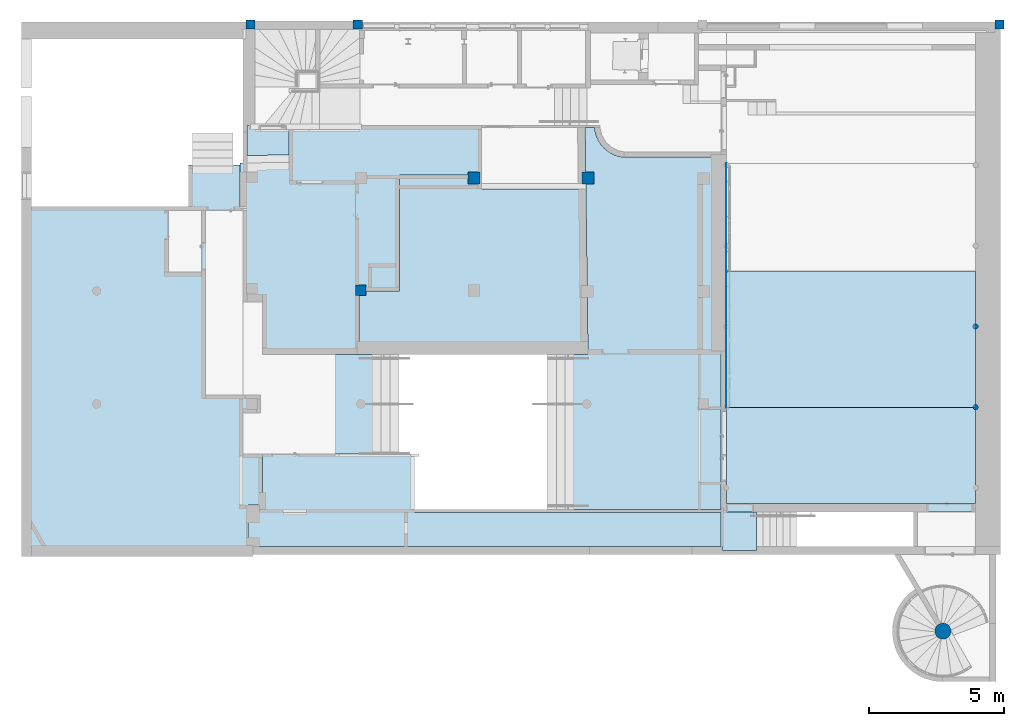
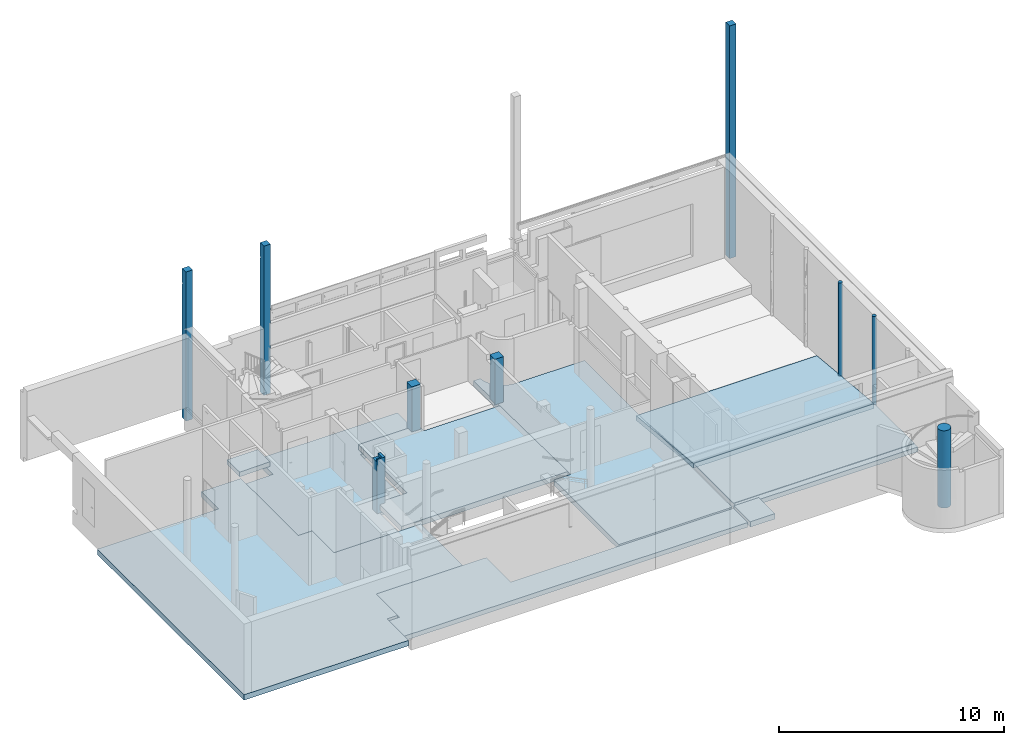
# One storey, part 3 of 39: 13 slabs, 9 columns, 2 elements without a shape of their own.
"""IFC4 building model written with IfcOpenShell, lengths in metres."""

from ifc_helpers import new_model, entity, si_unit, converted_unit, derived_unit, direction, frame, origin, place, context, subcontext, project, spatial, indexed_curve, outline, extrude, polygons, source, transform, mapped, material, material_list, layer, layer_set, type_object, type_shapes, element, aggregate, save


model = new_model("IFC4")

# Units and contexts
model_context = context("Model", 3, precision=1e-05, world=origin(), true_north=direction((6.12303176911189e-17, 1.0)))
body_context = subcontext(model_context, "Body", "Model", "MODEL_VIEW")
ifc_project = project(units=[si_unit("LENGTHUNIT", "METRE"), si_unit("AREAUNIT", "SQUARE_METRE"), si_unit("VOLUMEUNIT", "CUBIC_METRE"), converted_unit("PLANEANGLEUNIT", "DEGREE", entity("IfcRatioMeasure", 0.0174532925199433), si_unit("PLANEANGLEUNIT", "RADIAN"), dimensions=[0, 0, 0, 0, 0, 0, 0]), si_unit("MASSUNIT", "GRAM", prefix="KILO"), derived_unit("MASSDENSITYUNIT", [(si_unit("MASSUNIT", "GRAM", prefix="KILO"), 1), (si_unit("LENGTHUNIT", "METRE"), -3)]), derived_unit("MOMENTOFINERTIAUNIT", [(si_unit("LENGTHUNIT", "METRE"), 4)]), si_unit("TIMEUNIT", "SECOND"), si_unit("FREQUENCYUNIT", "HERTZ"), si_unit("THERMODYNAMICTEMPERATUREUNIT", "DEGREE_CELSIUS"), derived_unit("THERMALTRANSMITTANCEUNIT", [(si_unit("MASSUNIT", "GRAM", prefix="KILO"), 1), (si_unit("THERMODYNAMICTEMPERATUREUNIT", "KELVIN"), -1), (si_unit("TIMEUNIT", "SECOND"), -3)]), derived_unit("VOLUMETRICFLOWRATEUNIT", [(si_unit("LENGTHUNIT", "METRE"), 3), (si_unit("TIMEUNIT", "SECOND"), -1)]), si_unit("ELECTRICCURRENTUNIT", "AMPERE"), si_unit("ELECTRICVOLTAGEUNIT", "VOLT"), si_unit("POWERUNIT", "WATT"), si_unit("FORCEUNIT", "NEWTON", prefix="KILO"), si_unit("ILLUMINANCEUNIT", "LUX"), si_unit("LUMINOUSFLUXUNIT", "LUMEN"), si_unit("LUMINOUSINTENSITYUNIT", "CANDELA"), derived_unit("USERDEFINED", [(si_unit("MASSUNIT", "GRAM", prefix="KILO"), -1), (si_unit("LENGTHUNIT", "METRE"), -2), (si_unit("TIMEUNIT", "SECOND"), 3), (si_unit("LUMINOUSFLUXUNIT", "LUMEN"), 1)]), derived_unit("LINEARVELOCITYUNIT", [(si_unit("LENGTHUNIT", "METRE"), 1), (si_unit("TIMEUNIT", "SECOND"), -1)]), si_unit("PRESSUREUNIT", "PASCAL"), derived_unit("USERDEFINED", [(si_unit("LENGTHUNIT", "METRE"), -2), (si_unit("MASSUNIT", "GRAM", prefix="KILO"), 1), (si_unit("TIMEUNIT", "SECOND"), -2)]), derived_unit("LINEARFORCEUNIT", [(si_unit("MASSUNIT", "GRAM", prefix="KILO"), 1), (si_unit("LENGTHUNIT", "METRE"), 1), (si_unit("TIMEUNIT", "SECOND"), -2), (si_unit("LENGTHUNIT", "METRE"), -1)]), derived_unit("PLANARFORCEUNIT", [(si_unit("MASSUNIT", "GRAM", prefix="KILO"), 1), (si_unit("LENGTHUNIT", "METRE"), 1), (si_unit("TIMEUNIT", "SECOND"), -2), (si_unit("LENGTHUNIT", "METRE"), -2)])], contexts=[model_context])

# Site, building, storey
site_placement = place(None, origin())
site = spatial("IfcSite", under=ifc_project, at=site_placement, Name="Default", CompositionType="ELEMENT")
building_placement = place(site_placement, origin())
building = spatial("IfcBuilding", under=site, at=building_placement, Name="HOTEL CONSULAIRE BOULOGNE SUR MER", CompositionType="ELEMENT")
storey_placement = place(building_placement, frame((0.0, 0.0, -5.02343668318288)))
storey = spatial("IfcBuildingStorey", under=building, at=storey_placement, Name="SS3", CompositionType="ELEMENT", Elevation=-5.02343668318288)

# Columns
ifc_material_1 = material(Name="Finition Peinture - Blanc satiné", Category="Peinture")
ifc_material_2 = material(Name="Maçonnerie - Béton coulé sur place", Category="Béton")
ifc_material_list_1 = material_list([ifc_material_2, ifc_material_1])
column_type_1 = type_object("IfcColumnType", Name="Poteau béton - Rectangulaire:340x340", PredefinedType="COLUMN", material=ifc_material_list_1)
shared_shape_1 = source(origin(), body_context, "Body", "Tessellation", [
    polygons([(0.340000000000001, 0.340000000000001, 0.0), (0.340000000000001, 0.0, 0.0), (1.08286712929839e-15, 0.0, 0.0), (1.08286712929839e-15, 0.340000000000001, 0.0), (0.340000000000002, 0.34, 7.22743668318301), (0.340000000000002, 0.304308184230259, 7.22743668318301), (0.340000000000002, 0.304308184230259, 7.32743668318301), (0.340000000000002, 0.34, 7.32743668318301), (0.340000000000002, 0.34, 8.07496366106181), (0.340000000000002, 0.0, 8.07496366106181), (1.08286712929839e-15, 0.0, 8.07496366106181), (1.08286712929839e-15, 0.0, 8.07454145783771), (1.08286712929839e-15, 0.0, 5.00343668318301), (1.08286712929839e-15, 0.340000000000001, 8.07496366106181), (1.08286712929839e-15, 0.340000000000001, 7.32743668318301), (1.08286712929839e-15, 0.304308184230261, 7.32743668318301), (1.08286712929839e-15, 0.304308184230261, 7.22743668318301), (1.08286712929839e-15, 0.340000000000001, 7.22743668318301)], [[[3, 4, 1, 2]], [[15, 8, 7, 16]], [[10, 2, 1, 5, 6, 7, 8, 9]], [[10, 11, 12, 13, 3, 2]], [[14, 15, 16, 17, 18, 4, 3, 13, 12, 11]], [[14, 9, 8, 15]], [[7, 6, 17, 16]], [[18, 5, 1, 4]], [[10, 9, 14, 11]], [[6, 5, 18, 17]]], closed=True),
])
type_shapes(column_type_1, [shared_shape_1])
column_1_placement = place(storey_placement, frame((-5.50398066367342, -10.0846323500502, 0.0)))
element("IfcColumn", 1, at=column_1_placement, inside=storey, type_object=column_type_1, material=ifc_material_1, Name="Poteau béton - Rectangulaire:340x340", ObjectType="Poteau béton - Rectangulaire:340x340", PredefinedType="COLUMN", context=body_context, shape_type="MappedRepresentation", body=[
    mapped(shared_shape_1, transform((0.0, 0.0, 0.0), scale=1.0)),
])
column_type_2 = type_object("IfcColumnType", Name="Poteau béton - Rectangulaire:340x340", PredefinedType="COLUMN", material=ifc_material_2)
shared_shape_2 = source(origin(), body_context, "Body", "Tessellation", [
    polygons([(0.340000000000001, 0.340000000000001, 0.0), (0.340000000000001, 0.27030818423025, 0.0), (0.340000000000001, 0.14430818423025, 0.0), (0.340000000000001, 0.0, 0.0), (5.41433564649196e-16, 0.0, 0.0), (5.41433564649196e-16, 0.340000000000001, 0.0), (0.34, 0.34, 7.22743668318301), (0.34, 0.304308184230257, 7.22743668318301), (0.34, 0.304308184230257, 7.32743668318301), (0.34, 0.34, 7.32743668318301), (0.34, 0.34, 8.07496366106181), (0.34, 0.32999999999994, 8.07496366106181), (0.34, 0.00999999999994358, 8.07496366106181), (0.34, 0.0, 8.07496366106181), (0.34, 0.0, 3.81699999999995), (0.34, 0.0, 2.63399047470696), (0.34, 0.0, 2.46399047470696), (0.34, 0.0, 0.0800000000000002), (5.41433564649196e-16, 0.0, 8.07496366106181), (5.41433564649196e-16, 0.00999999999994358, 8.07496366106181), (5.41433564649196e-16, 0.329999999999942, 8.07496366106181), (5.41433564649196e-16, 0.340000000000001, 8.07496366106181), (5.41433564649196e-16, 0.340000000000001, 7.32743668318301), (5.41433564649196e-16, 0.304308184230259, 7.32743668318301), (5.41433564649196e-16, 0.304308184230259, 7.22743668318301), (5.41433564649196e-16, 0.340000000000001, 7.22743668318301)], [[[5, 6, 1, 2, 3, 4]], [[23, 10, 9, 24]], [[13, 14, 15, 16, 17, 18, 4, 3, 2, 1, 7, 8, 9, 10, 11, 12]], [[19, 5, 4, 18, 17, 16, 15, 14]], [[22, 23, 24, 25, 26, 6, 5, 19, 20, 21]], [[22, 11, 10, 23]], [[24, 9, 8, 25]], [[26, 7, 1, 6]], [[12, 11, 22, 21, 20, 19, 14, 13]], [[8, 7, 26, 25]]], closed=True),
])
type_shapes(column_type_2, [shared_shape_2])
column_2_placement = place(storey_placement, frame((-1.51098066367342, -10.0846323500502, 0.0)))
element("IfcColumn", 2, at=column_2_placement, inside=storey, type_object=column_type_2, material=ifc_material_2, Name="Poteau béton - Rectangulaire:340x340", ObjectType="Poteau béton - Rectangulaire:340x340", PredefinedType="COLUMN", context=body_context, shape_type="MappedRepresentation", body=[
    mapped(shared_shape_2, transform((0.0, 0.0, 0.0), scale=1.0)),
])
ifc_material_list_2 = material_list([ifc_material_2, ifc_material_1])
column_type_3 = type_object("IfcColumnType", Name="Poteau béton - Rectangulaire:340x340", PredefinedType="COLUMN", material=ifc_material_list_2)
shared_shape_3 = source(origin(), body_context, "Body", "SweptSolid", [
    extrude(outline(indexed_curve([(-0.17, -0.17), (0.17, -0.17), (0.17, 0.17), (-0.169999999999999, 0.17), (-0.17, -0.17)], self_intersect=False)), frame((22.5070193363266, -9.91463235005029, -5.96433668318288), z_axis=(0.0, 0.0, 1.0), x_axis=(0.0, -1.0, 0.0)), (0.0, 0.0, 1.0), 12.596336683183),
])
type_shapes(column_type_3, [shared_shape_3])
column_3_placement = place(storey_placement, frame((0.0, 0.0, 5.02343668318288)))
element("IfcColumn", 3, at=column_3_placement, inside=storey, type_object=column_type_3, material=ifc_material_1, Name="Poteau béton - Rectangulaire:340x340", ObjectType="Poteau béton - Rectangulaire:340x340", PredefinedType="COLUMN", context=body_context, shape_type="MappedRepresentation", body=[
    mapped(shared_shape_3, transform((0.0, 0.0, 0.0), scale=1.0)),
])
column_type_4 = type_object("IfcColumnType", Name="Poteau béton - Rectangulaire:400x400", PredefinedType="COLUMN", material=ifc_material_2)
shared_shape_4 = source(origin(), body_context, "Body", "Tessellation", [
    polygons([(0.4, 0.399999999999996, 0.0), (0.4, -4.33146851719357e-15, 0.0), (0.131664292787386, -4.33146851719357e-15, 0.0), (0.0, -4.33146851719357e-15, 0.0), (0.0, 0.399999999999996, 0.0), (0.131664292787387, 0.399999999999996, 0.0), (0.4, 0.399999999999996, 2.94499999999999), (0.4, -4.33146851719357e-15, 2.94499999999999), (0.4, -4.33146851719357e-15, 2.86899999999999), (0.4, -4.33146851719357e-15, 2.49899999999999), (0.0, -4.33146851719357e-15, 2.94499999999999), (0.0, -4.33146851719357e-15, 2.80999999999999), (0.0, -4.33146851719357e-15, 2.30999999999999), (0.0, 0.0779954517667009, 2.94499999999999), (0.0, 0.0779954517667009, 2.80999999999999), (0.0, 0.0779954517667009, 2.79499999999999), (0.0, 0.244678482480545, 2.79499999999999), (0.0, 0.399999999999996, 2.79499999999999), (0.131664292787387, 0.399999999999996, 2.79499999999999), (0.280000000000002, 0.399999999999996, 2.79499999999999), (0.280000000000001, 0.399999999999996, 2.94499999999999), (0.280000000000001, 0.0779954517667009, 2.94499999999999), (0.280000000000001, 0.0779954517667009, 2.79499999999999)], [[[3, 4, 5, 6, 1, 2]], [[7, 8, 9, 10, 2, 1]], [[11, 12, 13, 4, 3, 2, 10, 9, 8]], [[12, 11, 14, 15, 16, 17, 18, 5, 4, 13]], [[21, 20, 23, 22]], [[21, 7, 1, 6, 5, 18, 19, 20]], [[15, 14, 22, 23, 16]], [[22, 14, 11, 8, 7, 21]], [[17, 16, 23, 20, 19, 18]]], closed=True),
])
type_shapes(column_type_4, [shared_shape_4])
column_4_placement = place(storey_placement, frame((-1.42882322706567, -19.992909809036, -0.43)))
element("IfcColumn", 4, at=column_4_placement, inside=storey, type_object=column_type_4, material=ifc_material_2, Name="Poteau béton - Rectangulaire:400x400", ObjectType="Poteau béton - Rectangulaire:400x400", PredefinedType="COLUMN", context=body_context, shape_type="MappedRepresentation", body=[
    mapped(shared_shape_4, transform((0.0, 0.0, 0.0), scale=1.0)),
])
column_type_5 = type_object("IfcColumnType", Name="Poteau béton - Rectangulaire:450X450", PredefinedType="COLUMN", material=ifc_material_2)
shared_shape_5 = source(origin(), body_context, "Body", "Tessellation", [
    polygons([(0.450000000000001, 0.450000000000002, 0.0), (0.450000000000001, 2.16573425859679e-15, 0.0), (0.381878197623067, 2.16573425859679e-15, 0.0), (5.41433564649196e-16, 2.16573425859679e-15, 0.0), (5.41433564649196e-16, 0.191000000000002, 0.0), (5.41433564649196e-16, 0.341000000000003, 0.0), (5.41433564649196e-16, 0.450000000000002, 0.0), (0.381878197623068, 0.450000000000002, 0.0), (0.450000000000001, 0.45, 2.60599999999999), (0.450000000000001, 0.45, 2.89399999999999), (0.450000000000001, 0.0, 2.89399999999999), (0.450000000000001, 0.0, 2.62999999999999), (0.450000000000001, 0.0, 0.452), (0.450000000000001, 0.341, 0.451999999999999), (0.450000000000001, 0.341, 0.162), (0.450000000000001, 0.0, 0.162), (5.41433564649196e-16, 0.0, 2.89399999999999), (5.41433564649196e-16, 0.0, 0.452), (0.381878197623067, 0.0, 0.452), (5.41433564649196e-16, 2.16573425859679e-15, 0.162), (5.41433564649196e-16, 0.191000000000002, 0.162), (5.41433564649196e-16, 0.341, 0.162), (5.41433564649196e-16, 0.341000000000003, 0.452), (5.41433564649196e-16, 0.191000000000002, 0.452), (5.41433564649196e-16, 0.450000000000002, 2.89399999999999), (0.381878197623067, 0.0, 0.162)], [[[6, 7, 8, 1, 2, 3, 4, 5]], [[19, 18, 24, 23, 14, 13]], [[11, 12, 13, 14, 15, 16, 2, 1, 9, 10]], [[11, 17, 18, 19, 13, 12]], [[14, 23, 22, 15]], [[26, 20, 4, 3, 2, 16]], [[25, 7, 6, 5, 4, 20, 21, 22, 23, 24, 18, 17]], [[25, 10, 9, 1, 8, 7]], [[11, 10, 25, 17]], [[15, 22, 21, 20, 26, 16]]], closed=True),
])
type_shapes(column_type_5, [shared_shape_5])
column_5_placement = place(storey_placement, frame((2.74617677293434, -15.840909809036, -0.43)))
element("IfcColumn", 5, at=column_5_placement, inside=storey, type_object=column_type_5, material=ifc_material_2, Name="Poteau béton - Rectangulaire:450X450", ObjectType="Poteau béton - Rectangulaire:450X450", PredefinedType="COLUMN", context=body_context, shape_type="MappedRepresentation", body=[
    mapped(shared_shape_5, transform((0.0, 0.0, 0.0), scale=1.0)),
])
column_type_6 = type_object("IfcColumnType", Name="Poteau béton - Rectangulaire:450X450", PredefinedType="COLUMN", material=ifc_material_2)
shared_shape_6 = source(origin(), body_context, "Body", "Tessellation", [
    polygons([(0.45, 0.450000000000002, 0.0), (0.45, 2.16573425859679e-15, 0.0), (0.139943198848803, 2.16573425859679e-15, 0.0), (0.0, 2.16573425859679e-15, 0.0), (0.0, 0.0239999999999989, 0.0), (0.139632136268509, 0.0239999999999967, 0.0), (0.134110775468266, 0.450000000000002, 0.0), (0.45, 0.45, 2.46399999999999), (0.45, 0.0, 2.46399999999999), (0.0, 0.0, 2.46399999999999), (0.0, 0.450000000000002, 2.46399999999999), (0.0, 0.450000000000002, 2.17599999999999), (0.0, 0.450000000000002, 0.0800000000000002), (0.0, 0.0239999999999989, 0.0800000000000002), (0.134110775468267, 0.450000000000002, 0.0800000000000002), (0.139632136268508, 0.0239999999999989, 0.0800000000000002)], [[[6, 7, 1, 2, 3, 4, 5]], [[14, 13, 15, 16]], [[8, 9, 2, 1]], [[9, 10, 4, 3, 2]], [[10, 11, 12, 13, 14, 5, 4]], [[11, 8, 1, 7, 15, 13, 12]], [[14, 16, 6, 5]], [[9, 8, 11, 10]], [[16, 15, 7, 6]]], closed=True),
])
type_shapes(column_type_6, [shared_shape_6])
column_6_placement = place(storey_placement, frame((6.9937083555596, -15.843909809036, 0.0)))
element("IfcColumn", 6, at=column_6_placement, inside=storey, type_object=column_type_6, material=ifc_material_2, Name="Poteau béton - Rectangulaire:450X450", ObjectType="Poteau béton - Rectangulaire:450X450", PredefinedType="COLUMN", context=body_context, shape_type="MappedRepresentation", body=[
    mapped(shared_shape_6, transform((0.0, 0.0, 0.0), scale=1.0)),
])
ifc_material_list_3 = material_list([ifc_material_2, ifc_material_1])
column_type_7 = type_object("IfcColumnType", Name="Poteau béton - Arrondi:200mm", PredefinedType="COLUMN", material=ifc_material_list_3)
shared_shape_7 = source(origin(), body_context, "Body", "SweptSolid", [
    extrude(outline(indexed_curve([(0.0999999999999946, 0.0), (0.0951056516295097, 0.0309016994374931), (0.0809016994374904, 0.0587785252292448), (0.0587785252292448, 0.0809016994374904), (0.0309016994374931, 0.0951056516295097), (0.0, 0.0999999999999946), (-0.0309016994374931, 0.0951056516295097), (-0.0587785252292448, 0.0809016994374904), (-0.0809016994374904, 0.0587785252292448), (-0.0951056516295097, 0.0309016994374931), (-0.0999999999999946, 0.0), (-0.0951056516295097, -0.0309016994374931), (-0.0809016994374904, -0.0587785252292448), (-0.0587785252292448, -0.0809016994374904), (-0.0309016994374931, -0.0951056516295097), (0.0, -0.0999999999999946), (0.0309016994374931, -0.0951056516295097), (0.0587785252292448, -0.0809016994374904), (0.0809016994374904, -0.0587785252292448), (0.0951056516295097, -0.0309016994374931), (0.0999999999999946, 0.0)], self_intersect=False)), frame((21.6249511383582, -21.134909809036, -5.96433668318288)), (0.0, 0.0, 1.0), 5.69433668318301),
])
type_shapes(column_type_7, [shared_shape_7])
column_7_placement = place(storey_placement, frame((0.0, 0.0, 5.02343668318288)))
element("IfcColumn", 7, at=column_7_placement, inside=storey, type_object=column_type_7, material=ifc_material_1, Name="Poteau béton - Arrondi:200mm", ObjectType="Poteau béton - Arrondi:200mm", PredefinedType="COLUMN", context=body_context, shape_type="MappedRepresentation", body=[
    mapped(shared_shape_7, transform((0.0, 0.0, 0.0), scale=1.0)),
])
ifc_material_list_4 = material_list([ifc_material_2, ifc_material_1])
column_type_8 = type_object("IfcColumnType", Name="Poteau béton - Arrondi:200mm", PredefinedType="COLUMN", material=ifc_material_list_4)
shared_shape_8 = source(origin(), body_context, "Body", "SweptSolid", [
    extrude(outline(indexed_curve([(0.0999999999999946, 0.0), (0.0951056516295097, 0.0309016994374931), (0.0809016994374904, 0.0587785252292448), (0.0587785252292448, 0.0809016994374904), (0.0309016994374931, 0.0951056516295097), (0.0, 0.0999999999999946), (-0.0309016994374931, 0.0951056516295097), (-0.0587785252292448, 0.0809016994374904), (-0.0809016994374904, 0.0587785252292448), (-0.0951056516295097, 0.0309016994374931), (-0.0999999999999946, 0.0), (-0.0951056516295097, -0.0309016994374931), (-0.0809016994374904, -0.0587785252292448), (-0.0587785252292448, -0.0809016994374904), (-0.0309016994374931, -0.0951056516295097), (0.0, -0.0999999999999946), (0.0309016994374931, -0.0951056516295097), (0.0587785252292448, -0.0809016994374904), (0.0809016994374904, -0.0587785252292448), (0.0951056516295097, -0.0309016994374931), (0.0999999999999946, 0.0)], self_intersect=False)), frame((21.6249511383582, -24.134909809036, -5.96433668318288)), (0.0, 0.0, 1.0), 5.69433668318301),
])
type_shapes(column_type_8, [shared_shape_8])
column_8_placement = place(storey_placement, frame((0.0, 0.0, 5.02343668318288)))
element("IfcColumn", 8, at=column_8_placement, inside=storey, type_object=column_type_8, material=ifc_material_1, Name="Poteau béton - Arrondi:200mm", ObjectType="Poteau béton - Arrondi:200mm", PredefinedType="COLUMN", context=body_context, shape_type="MappedRepresentation", body=[
    mapped(shared_shape_8, transform((0.0, 0.0, 0.0), scale=1.0)),
])
column_type_9 = type_object("IfcColumnType", Name="Poteau béton - Arrondi:600mm", PredefinedType="COLUMN", material=ifc_material_2)
shared_shape_9 = source(origin(), body_context, "Body", "SweptSolid", [
    extrude(outline(indexed_curve([(0.299999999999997, 0.0), (0.285316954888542, 0.0927050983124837), (0.24270509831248, 0.176335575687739), (0.176335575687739, 0.24270509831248), (0.0927050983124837, 0.285316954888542), (0.0, 0.299999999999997), (-0.0927050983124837, 0.285316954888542), (-0.176335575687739, 0.24270509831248), (-0.24270509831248, 0.176335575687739), (-0.285316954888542, 0.0927050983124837), (-0.299999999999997, 0.0), (-0.285316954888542, -0.0927050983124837), (-0.24270509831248, -0.176335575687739), (-0.176335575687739, -0.24270509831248), (-0.0927050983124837, -0.285316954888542), (0.0, -0.299999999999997), (0.0927050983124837, -0.285316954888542), (0.176335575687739, -0.24270509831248), (0.24270509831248, -0.176335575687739), (0.285316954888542, -0.0927050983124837), (0.299999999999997, 0.0)], self_intersect=False)), frame((20.4072928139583, -32.4604091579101, -5.02343668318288)), (0.0, 0.0, 1.0), 4.18923690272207),
])
type_shapes(column_type_9, [shared_shape_9])
column_9_placement = place(storey_placement, frame((0.0, 0.0, 5.02343668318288)))
element("IfcColumn", 9, at=column_9_placement, inside=storey, type_object=column_type_9, material=ifc_material_2, Name="Poteau béton - Arrondi:600mm", ObjectType="Poteau béton - Arrondi:600mm", PredefinedType="COLUMN", context=body_context, shape_type="MappedRepresentation", body=[
    mapped(shared_shape_9, transform((0.0, 0.0, 0.0), scale=1.0)),
])

# Slabs
ifc_material_3 = material(Name="carrelage 30x30")
ifc_layer_1 = layer(ifc_material_3, 0.04, Name="carrelage 30x30")
ifc_material_4 = material(Name="Béton - Béton coulé sur place", Category="Béton")
ifc_layer_2 = layer(ifc_material_4, 0.25, Name="Béton - Béton coulé sur place", Category="Béton")
ifc_layer_set_1 = layer_set([ifc_layer_1, ifc_layer_2], Name="Sol:Dalle en béton -250 finition carrelage beige")
slab_type_1 = type_object("IfcSlabType", Name="Sol:Dalle en béton -250 finition carrelage beige", PredefinedType="FLOOR", material=ifc_layer_set_1)
slab_1_placement = place(storey_placement, origin())
element("IfcSlab", 10, at=slab_1_placement, inside=storey, type_object=slab_type_1, material=ifc_layer_set_1, Name="Sol:Dalle en béton -250 finition carrelage beige", ObjectType="Sol:Dalle en béton -250 finition carrelage beige", PredefinedType="FLOOR", context=body_context, shape_type="SweptSolid", body=[
    extrude(outline(indexed_curve([(-8.26891015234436, -2.05767815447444), (-2.49185540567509, -2.05767815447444), (-2.49185540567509, -1.20622141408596), (5.92845383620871, -1.31535654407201), (5.92845383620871, -0.961478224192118), (5.76256702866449, -0.937121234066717), (5.60175019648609, -0.889690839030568), (5.44919595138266, -0.820128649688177), (5.30793287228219, -0.729815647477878), (5.18076538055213, -0.620544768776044), (5.07021806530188, -0.494485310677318), (4.97848556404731, -0.354139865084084), (4.90738899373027, -0.202294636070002), (4.85833979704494, -0.0419641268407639), (4.83231172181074, 0.123668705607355), (4.83231172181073, 3.7373718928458), (-8.26891015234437, 3.7373718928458), (-8.26891015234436, -2.05767815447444)], self_intersect=False)), frame((8.42185492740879, -19.6773636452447, 0.0), z_axis=(0.0, 0.0, -1.0), x_axis=(0.0, 1.0, 0.0)), (0.0, 0.0, 1.0), 0.29),
])
ifc_layer_3 = layer(ifc_material_4, 0.25, Name="Béton - Béton coulé sur place", Category="Béton")
ifc_layer_set_2 = layer_set([ifc_layer_3], Name="Sol:Dalle en béton -250")
slab_type_2 = type_object("IfcSlabType", Name="Sol:Dalle en béton -250", PredefinedType="FLOOR", material=ifc_layer_set_2)
slab_2_placement = place(storey_placement, origin())
element("IfcSlab", 11, at=slab_2_placement, inside=storey, type_object=slab_type_2, material=ifc_layer_set_2, Name="Sol:Dalle en béton -250", ObjectType="Sol:Dalle en béton -250", PredefinedType="FLOOR", context=body_context, shape_type="SweptSolid", body=[
    extrude(outline(indexed_curve([(-1.52272442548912, -6.07193453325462), (-0.150931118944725, -6.07193453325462), (-0.150931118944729, -5.53352356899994), (1.92458666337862, -5.53352356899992), (1.92458666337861, 0.103476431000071), (-0.250931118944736, 0.10347643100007), (-0.250931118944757, 11.5019816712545), (-1.52272442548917, 11.5019816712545), (-1.52272442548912, -6.07193453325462)], self_intersect=False)), frame((0.657245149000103, -27.7953426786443, 0.0), z_axis=(0.0, 0.0, -1.0), x_axis=(0.0, 1.0, 0.0)), (0.0, 0.0, 1.0), 0.249999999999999),
])
slab_type_3 = type_object("IfcSlabType", Name="Sol:Dalle en béton -250 finition carrelage beige", PredefinedType="FLOOR", material=ifc_layer_set_1)
slab_3_placement = place(storey_placement, origin())
element("IfcSlab", 12, at=slab_3_placement, inside=storey, type_object=slab_type_3, material=ifc_layer_set_1, Name="Sol:Dalle en béton -250 finition carrelage beige", ObjectType="Sol:Dalle en béton -250 finition carrelage beige", PredefinedType="FLOOR", context=body_context, shape_type="SweptSolid", body=[
    extrude(outline(indexed_curve([(-7.18345550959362, -7.74411486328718), (5.83002734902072, -7.74411486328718), (5.83002734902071, -1.53375374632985), (7.37203596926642, -1.53375374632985), (7.37203596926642, 0.499246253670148), (2.2828062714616, 0.499246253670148), (2.2828062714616, 1.21346164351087), (0.335392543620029, 1.21346164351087), (0.335392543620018, 5.65365887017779), (-3.36614442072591, 5.65365887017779), (-3.3661444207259, 1.22495640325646), (-5.27066220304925, 1.22495640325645), (-5.27066220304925, 0.686545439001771), (-7.18345550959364, 0.68654543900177), (-7.18345550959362, -7.74411486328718)], self_intersect=False)), frame((-6.10123482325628, -22.5046115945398, 0.0), z_axis=(0.0, 0.0, -1.0), x_axis=(0.0, 1.0, 0.0)), (0.0, 0.0, 1.0), 0.29),
])
slab_type_4 = type_object("IfcSlabType", Name="Sol:Dalle en béton -250", PredefinedType="FLOOR", material=ifc_layer_set_2)
slab_4_placement = place(storey_placement, origin())
element("IfcSlab", 13, at=slab_4_placement, inside=storey, type_object=slab_type_4, material=ifc_layer_set_2, Name="Sol:Dalle en béton -250", ObjectType="Sol:Dalle en béton -250", PredefinedType="FLOOR", context=body_context, shape_type="SweptSolid", body=[
    extrude(outline(indexed_curve([(-0.564802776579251, -0.784414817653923), (0.551110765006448, -0.784414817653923), (0.551110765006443, 0.784414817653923), (-0.53741875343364, 0.784414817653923), (-0.564802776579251, -0.784414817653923)], self_intersect=False)), frame((-4.67757375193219, -14.2200205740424, 0.0800000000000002), z_axis=(0.0, 0.0, -1.0), x_axis=(0.0, 1.0, 0.0)), (0.0, 0.0, 1.0), 0.249999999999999),
])
ifc_material_5 = material(Name="carreau 40x40 gris")
ifc_layer_4 = layer(ifc_material_5, 0.04, Name="carreau 40x40 gris")
ifc_layer_5 = layer(ifc_material_4, 0.25, Name="Béton - Béton coulé sur place", Category="Béton")
ifc_layer_set_3 = layer_set([ifc_layer_4, ifc_layer_5], Name="Sol:Dalle en béton -250 finition carrelage gris")
slab_type_5 = type_object("IfcSlabType", Name="Sol:Dalle en béton -250 finition carrelage gris", PredefinedType="FLOOR", material=ifc_layer_set_3)
slab_5_placement = place(storey_placement, origin())
element("IfcSlab", 14, at=slab_5_placement, inside=storey, type_object=slab_type_5, material=ifc_layer_set_3, Name="Sol:Dalle en béton -250 finition carrelage gris", ObjectType="Sol:Dalle en béton -250 finition carrelage gris", PredefinedType="FLOOR", context=body_context, shape_type="SweptSolid", body=[
    extrude(outline(indexed_curve([(0.803358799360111, -3.15110683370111), (2.5637988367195, -3.15110683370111), (2.59554662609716, -1.33227719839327), (3.95903323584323, -1.33227719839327), (3.95903323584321, 5.81893670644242), (1.9780332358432, 5.81893670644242), (1.97803323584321, 2.76872280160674), (-2.18495971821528, 2.76872280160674), (-2.18495971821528, 1.26372280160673), (-4.54127600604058, 1.26372280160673), (-4.54127600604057, -2.3268914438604), (-2.593862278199, -2.3268914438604), (-2.593862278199, -3.04110683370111), (0.803358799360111, -3.04110683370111), (0.803358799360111, -3.15110683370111)], self_intersect=False)), frame((-2.56088173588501, -17.6279430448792, -0.429999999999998), z_axis=(0.0, 0.0, -1.0), x_axis=(0.0, 1.0, 0.0)), (0.0, 0.0, 1.0), 0.29),
])
ifc_material_6 = material(Name="Sol en vinyl", Category="Planchers")
ifc_layer_6 = layer(ifc_material_6, 0.04, Name="Sol en vinyl", Category="Planchers")
ifc_layer_7 = layer(ifc_material_4, 0.25, Name="Béton - Béton coulé sur place", Category="Béton")
ifc_layer_set_4 = layer_set([ifc_layer_6, ifc_layer_7], Name="Sol:Dalle en béton -250 + vinyle")
slab_type_6 = type_object("IfcSlabType", Name="Sol:Dalle en béton -250 + vinyle", PredefinedType="FLOOR", material=ifc_layer_set_4)
slab_6_placement = place(storey_placement, origin())
element("IfcSlab", 15, at=slab_6_placement, inside=storey, type_object=slab_type_6, material=ifc_layer_set_4, Name="Sol:Dalle en béton -250 + vinyle", ObjectType="Sol:Dalle en béton -250 + vinyle", PredefinedType="FLOOR", context=body_context, shape_type="SweptSolid", body=[
    extrude(outline(indexed_curve([(-3.6201428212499, -3.63292342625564), (-1.49382653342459, -3.63292342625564), (-1.4938265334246, -2.12792342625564), (2.81916642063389, -2.12792342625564), (2.81916642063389, 0.922290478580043), (2.2948029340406, 0.922290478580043), (2.2948029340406, 4.80022474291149), (-3.62014282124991, 4.87688800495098), (-3.6201428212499, -3.63292342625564)], self_intersect=False)), frame((2.33576449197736, -18.3190762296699, 0.0220000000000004), z_axis=(0.0, 0.0, -1.0), x_axis=(0.0, 1.0, 0.0)), (0.0, 0.0, 1.0), 0.29),
])

slab_7_placement = place(storey_placement, frame((12.3592268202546, -28.0238231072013, -0.940919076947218)))
slab_7 = element("IfcSlab", 16, at=slab_7_placement, inside=storey, Name="Sol:Dalle en béton -250", ObjectType="Sol:Dalle en béton -250", PredefinedType="NOTDEFINED")
slab_type_7 = type_object("IfcSlabType", Name="Sol:Dalle en béton -250", PredefinedType="ROOF")
slab_8_placement = place(slab_7_placement, origin())
slab_8 = element("IfcSlab", 17, at=slab_8_placement, type_object=slab_type_7, material=ifc_material_4, Name="Sol:Dalle en béton -250", ObjectType="Sol:Dalle en béton -250", PredefinedType="NOTDEFINED", context=body_context, shape_type="SweptSolid", body=[
    extrude(outline(indexed_curve([(-4.63041682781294, -1.93499999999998), (4.63041682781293, -1.93500000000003), (4.63041682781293, -1.1459670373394), (4.63041682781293, -0.946206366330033), (4.63041682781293, 1.93499999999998), (-4.63041682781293, 1.93500000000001), (-4.63041682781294, -0.946339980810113), (-4.63041682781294, -1.14583342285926), (-4.63041682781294, -1.93499999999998)], self_intersect=False)), frame((4.63041682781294, 1.93500000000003, 0.930000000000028)), (0.0, 0.0, -1.0), 0.249999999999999),
])
slab_type_8 = type_object("IfcSlabType", Name="Sol:Dalle en béton -250", PredefinedType="ROOF")
slab_9_placement = place(slab_7_placement, origin())
slab_9 = element("IfcSlab", 18, at=slab_9_placement, type_object=slab_type_8, material=ifc_material_4, Name="Sol:Dalle en béton -250", ObjectType="Sol:Dalle en béton -250", PredefinedType="NOTDEFINED", context=body_context, shape_type="SweptSolid", body=[
    extrude(outline(indexed_curve([(-0.0546016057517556, 4.55443606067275), (-0.0546016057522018, -4.55443606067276), (0.0546016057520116, 0.551413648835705), (-0.0546016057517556, 4.55443606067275)], self_intersect=False)), frame((0.00185546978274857, 8.40765361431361, 0.535582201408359), z_axis=(0.999422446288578, 0.00253683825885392, 0.0338871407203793), x_axis=(0.0339819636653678, -0.0746093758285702, -0.99663366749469)), (0.99663366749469, 0.0746524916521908, -0.0338871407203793), 0.25),
])
slab_type_9 = type_object("IfcSlabType", Name="Sol:Dalle en béton -250", PredefinedType="ROOF")
slab_10_placement = place(slab_7_placement, origin())
slab_10 = element("IfcSlab", 19, at=slab_10_placement, type_object=slab_type_9, material=ifc_material_4, Name="Sol:Dalle en béton -250", ObjectType="Sol:Dalle en béton -250", PredefinedType="NOTDEFINED", context=body_context, shape_type="SweptSolid", body=[
    extrude(outline(indexed_curve([(4.63041682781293, -2.55350801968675), (4.63041682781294, 2.55350801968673), (-4.62670588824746, 2.55350801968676), (-4.63041682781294, -2.55350801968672), (4.63041682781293, -2.55350801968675)], self_intersect=False)), frame((4.63041682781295, 6.41172740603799, 0.685000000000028), z_axis=(0.0, 0.0959464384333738, 0.995386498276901), x_axis=(1.0, 0.0, 0.0)), (0.0, 0.0959464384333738, -0.995386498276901), 0.249999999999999),
])
aggregate(slab_7, [slab_8, slab_9, slab_10])

slab_11_placement = place(storey_placement, frame((12.3592268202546, -27.7238231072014, -0.690919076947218)))
slab_11 = element("IfcSlab", 20, at=slab_11_placement, inside=storey, Name="Sol:moquette rouge", ObjectType="Sol:moquette rouge", PredefinedType="NOTDEFINED")
ifc_material_7 = material(Name="Moquette rouge")
slab_type_10 = type_object("IfcSlabType", Name="Sol:moquette rouge", PredefinedType="ROOF")
slab_12_placement = place(slab_11_placement, origin())
slab_12 = element("IfcSlab", 21, at=slab_12_placement, type_object=slab_type_10, material=ifc_material_7, Name="Sol:moquette rouge", ObjectType="Sol:moquette rouge", PredefinedType="NOTDEFINED", context=body_context, shape_type="SweptSolid", body=[
    extrude(outline(indexed_curve([(-4.63041682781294, -1.78499999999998), (4.63041682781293, -1.78500000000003), (4.63041682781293, 1.78499999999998), (-4.63041682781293, 1.78500000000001), (-4.63041682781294, -1.78499999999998)], self_intersect=False)), frame((4.63041682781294, 1.78500000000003, 0.700000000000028)), (0.0, 0.0, -1.0), 0.0199999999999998),
])
slab_type_11 = type_object("IfcSlabType", Name="Sol:moquette rouge", PredefinedType="ROOF")
slab_13_placement = place(slab_11_placement, origin())
slab_13 = element("IfcSlab", 22, at=slab_13_placement, type_object=slab_type_11, material=ifc_material_7, Name="Sol:moquette rouge", ObjectType="Sol:moquette rouge", PredefinedType="NOTDEFINED", context=body_context, shape_type="SweptSolid", body=[
    extrude(outline(indexed_curve([(-0.0546016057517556, 4.55443606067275), (-0.0546016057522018, -4.55443606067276), (0.0546016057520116, 0.551413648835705), (-0.0546016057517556, 4.55443606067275)], self_intersect=False)), frame((0.00185546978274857, 8.10765361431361, 0.30558220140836), z_axis=(0.999422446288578, 0.00253683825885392, 0.0338871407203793), x_axis=(0.0339819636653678, -0.0746093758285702, -0.99663366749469)), (0.99663366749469, 0.0746524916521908, -0.0338871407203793), 0.0199999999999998),
])
slab_type_12 = type_object("IfcSlabType", Name="Sol:moquette rouge", PredefinedType="ROOF")
slab_14_placement = place(slab_11_placement, origin())
slab_14 = element("IfcSlab", 23, at=slab_14_placement, type_object=slab_type_12, material=ifc_material_7, Name="Sol:moquette rouge", ObjectType="Sol:moquette rouge", PredefinedType="NOTDEFINED", context=body_context, shape_type="SweptSolid", body=[
    extrude(outline(indexed_curve([(4.63041682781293, -2.55350801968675), (4.63041682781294, 2.55350801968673), (-4.62670588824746, 2.55350801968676), (-4.63041682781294, -2.55350801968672), (4.63041682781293, -2.55350801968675)], self_intersect=False)), frame((4.63041682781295, 6.11172740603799, 0.455000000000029), z_axis=(0.0, 0.0959464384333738, 0.995386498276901), x_axis=(1.0, 0.0, 0.0)), (0.0, 0.0959464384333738, -0.995386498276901), 0.0199999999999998),
])
aggregate(slab_11, [slab_12, slab_13, slab_14])

# Slab
slab_type_13 = type_object("IfcSlabType", Name="Sol:Dalle en béton -250 finition carrelage beige", PredefinedType="FLOOR", material=ifc_layer_set_1)
slab_15_placement = place(storey_placement, origin())
element("IfcSlab", 24, at=slab_15_placement, inside=storey, type_object=slab_type_13, material=ifc_layer_set_1, Name="Sol:Dalle en béton -250 finition carrelage beige", ObjectType="Sol:Dalle en béton -250 finition carrelage beige", PredefinedType="FLOOR", context=body_context, shape_type="SweptSolid", body=[
    extrude(outline(indexed_curve([(-0.722121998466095, -0.633916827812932), (0.722121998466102, -0.633916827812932), (0.7221219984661, 0.633916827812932), (-0.722121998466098, 0.633916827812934), (-0.722121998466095, -0.633916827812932)], self_intersect=False)), frame((12.8431436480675, -28.7459451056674, 0.11), z_axis=(0.0, 0.0, -1.0), x_axis=(0.0, 1.0, 0.0)), (0.0, 0.0, 1.0), 0.29),
])

save(model, "model.ifc")
